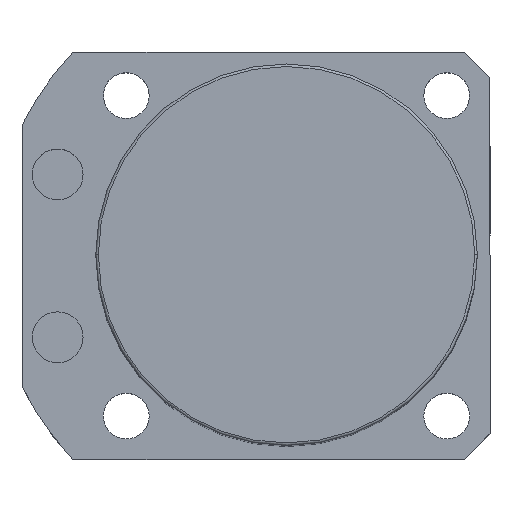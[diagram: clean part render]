
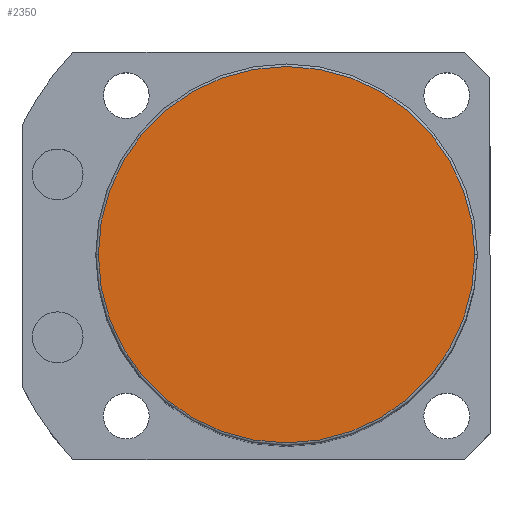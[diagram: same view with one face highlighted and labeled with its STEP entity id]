
A CAD part, top view. The second image highlights one B-rep face of the part: STEP entity #2350.
In plain terms, the highlighted planar face has unit normal (0, 0, 1).
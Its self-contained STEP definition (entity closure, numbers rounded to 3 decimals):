
#2 = DIRECTION ( 'NONE',  ( 0., 0., 1. ) ) ;
#5 = DIRECTION ( 'NONE',  ( 0., 0., 1. ) ) ;
#12 = VERTEX_POINT ( 'NONE', #1739 ) ;
#13 = CARTESIAN_POINT ( 'NONE',  ( 0., 0., 145.5 ) ) ;
#43 = EDGE_CURVE ( 'NONE', #1879, #12, #2046, .T. ) ;
#241 = ORIENTED_EDGE ( 'NONE', *, *, #43, .T. ) ;
#313 = AXIS2_PLACEMENT_3D ( 'NONE', #329, #5, #2339 ) ;
#329 = CARTESIAN_POINT ( 'NONE',  ( 0., 0., 145.5 ) ) ;
#500 = CIRCLE ( 'NONE', #1189, 37. ) ;
#553 = CARTESIAN_POINT ( 'NONE',  ( 0., 0., 145.5 ) ) ;
#949 = DIRECTION ( 'NONE',  ( 0., 0., 1. ) ) ;
#1127 = EDGE_LOOP ( 'NONE', ( #241, #2376 ) ) ;
#1189 = AXIS2_PLACEMENT_3D ( 'NONE', #553, #949, #1904 ) ;
#1461 = EDGE_CURVE ( 'NONE', #12, #1879, #500, .T. ) ;
#1662 = FACE_OUTER_BOUND ( 'NONE', #1127, .T. ) ;
#1739 = CARTESIAN_POINT ( 'NONE',  ( -37., 0., 145.5 ) ) ;
#1815 = DIRECTION ( 'NONE',  ( 1., 0., 0. ) ) ;
#1879 = VERTEX_POINT ( 'NONE', #1976 ) ;
#1904 = DIRECTION ( 'NONE',  ( 1., 0., 0. ) ) ;
#1976 = CARTESIAN_POINT ( 'NONE',  ( 37., 0., 145.5 ) ) ;
#2046 = CIRCLE ( 'NONE', #2330, 37. ) ;
#2207 = PLANE ( 'NONE',  #313 ) ;
#2330 = AXIS2_PLACEMENT_3D ( 'NONE', #13, #2, #1815 ) ;
#2339 = DIRECTION ( 'NONE',  ( 1., 0., 0. ) ) ;
#2350 = ADVANCED_FACE ( 'NONE', ( #1662 ), #2207, .T. ) ;
#2376 = ORIENTED_EDGE ( 'NONE', *, *, #1461, .T. ) ;
